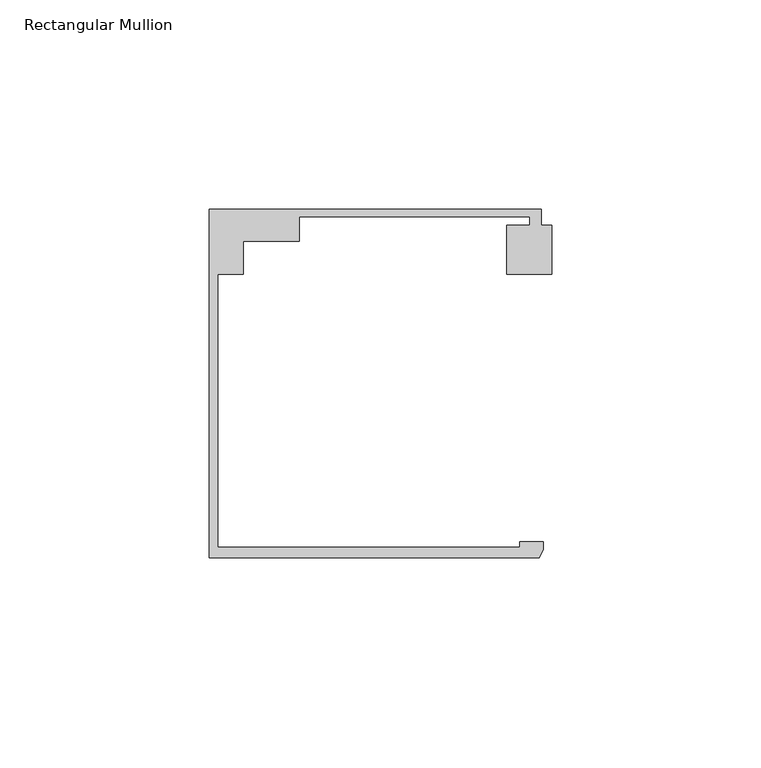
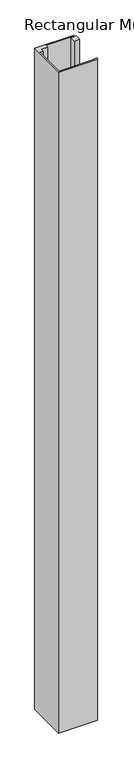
"""IFC4 building model written with IfcOpenShell, lengths in millimetres: member geometry, Rectangular Mullion : Danpal_Airpt_End-Mullion_B1."""

from ifc_helpers import new_model, si_unit, frame, origin, place, context, project, spatial, polyline, outline, extrude, source, transform, mapped, element, save


def rectangular_mullion_49ac0a23(model_context):
    return source(origin(), model_context, "Body", "SweptSolid", [
        extrude(outline(polyline([(24.3058808, -74.9940824), (24.3058808, -73.6940824), (29.8368746, -73.6940824), (29.8368746, -75.5472671), (28.9099149, -77.4940825), (-49.941586, -77.4940825), (-49.941586, 5.8051514), (29.4059014, 5.8051514), (29.4059014, 2.0051513), (31.9176464, 2.0051513), (31.9176464, -9.6875514), (21.2017673, -9.6875514), (21.2017673, 2.0051513), (26.7062306, 2.0051513), (26.7062306, 4.0051512), (-28.3937694, 4.0051512), (-28.3937694, -1.8818054), (-41.841586, -1.8818054), (-41.841586, -9.7188964), (-47.9415858, -9.7188964), (-47.9415858, -74.9940824), (24.3058808, -74.9940824)])), frame((0.0, 0.0, -1408.063098), z_axis=(0.0, 0.0, 1.0), x_axis=(1.0, 0.0, 0.0)), (0.0, 0.0, 1.0), 1408.063098),
    ])


if __name__ == "__main__":
    model = new_model("IFC4")
    model_context = context("Model", 3, world=origin())
    ifc_project = project(units=[si_unit("LENGTHUNIT", "METRE", prefix="MILLI")], contexts=[model_context])
    site = spatial("IfcSite", under=ifc_project)
    building = spatial("IfcBuilding", under=site)
    placement = place(None, origin())
    rectangular_mullion_shape = rectangular_mullion_49ac0a23(model_context)
    element("IfcMember", 1, ObjectType="Rectangular Mullion : Danpal_Airpt_End-Mullion_B1", at=placement, inside=building, context=model_context, shape_type="MappedRepresentation", body=[
        mapped(rectangular_mullion_shape, transform((0.0, 0.0, 0.0), x_axis=(1.0, 0.0, 0.0), y_axis=(0.0, 1.0, 0.0), z_axis=(0.0, 0.0, 1.0))),
    ])
    save(model, "model.ifc")
